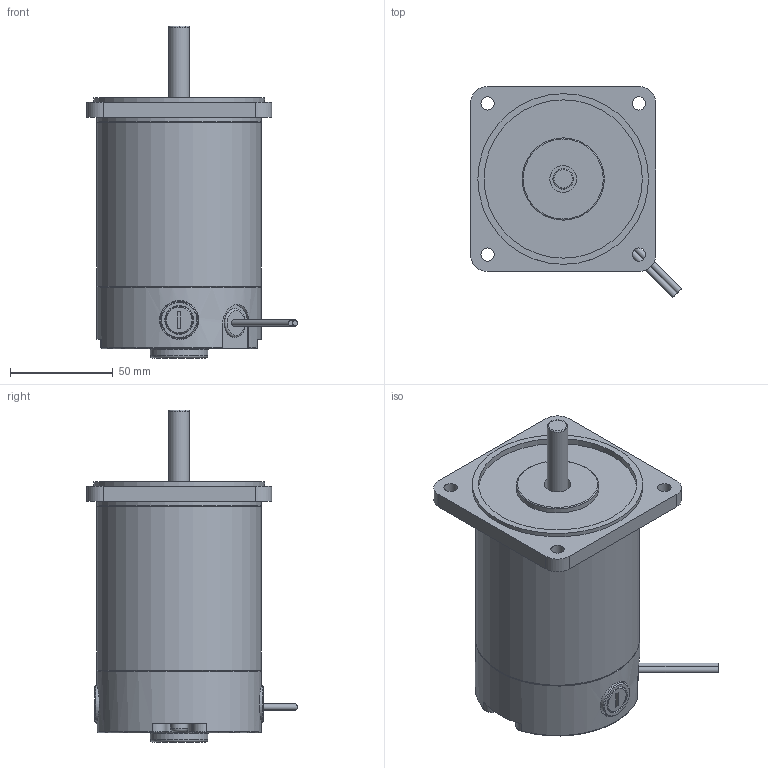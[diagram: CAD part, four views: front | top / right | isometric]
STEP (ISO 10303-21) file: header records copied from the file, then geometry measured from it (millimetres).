
FILE_DESCRIPTION((''),'2;1');
FILE_NAME('C:\Documents and Settings\ycw1227\바탕 화면\S9D40-ㅁS.stp','2013-06-05T11:09:40',('ycw1227'),(''),'Autodesk Inventor 2011','Autodesk Inventor 2011','');
FILE_SCHEMA(('AUTOMOTIVE_DESIGN { 1 0 10303 214 1 1 1 1 }'));
Length unit declared in the file: millimetre
Products named in the file (1): 부품8
Bounding box: 102.45 x 102.45 x 161.5 mm (x, y, z)
Volume: 628019.1 mm3; surface area: 57068.1 mm2
Topology: 1 solids, 3 shells, 163 faces, 378 edges, 245 vertices
Faces by surface type: plane 87, cylinder 46, torus 16, cone 14
Full cylindrical faces by diameter (mm): 3 x2, 5 x2, 6.5 x4, 8.5 x2, 9 x1, 10 x1, 13 x1, 13.5 x2, 14 x3, 18 x2, 19 x2, 28 x1, 40 x1, 77 x1, 80 x3, 83 x1
Entity records: 4700 total; most frequent: CARTESIAN_POINT 942, DIRECTION 765, ORIENTED_EDGE 670, EDGE_CURVE 335, AXIS2_PLACEMENT_3D 305, VERTEX_POINT 242, EDGE_LOOP 236, FACE_OUTER_BOUND 163
